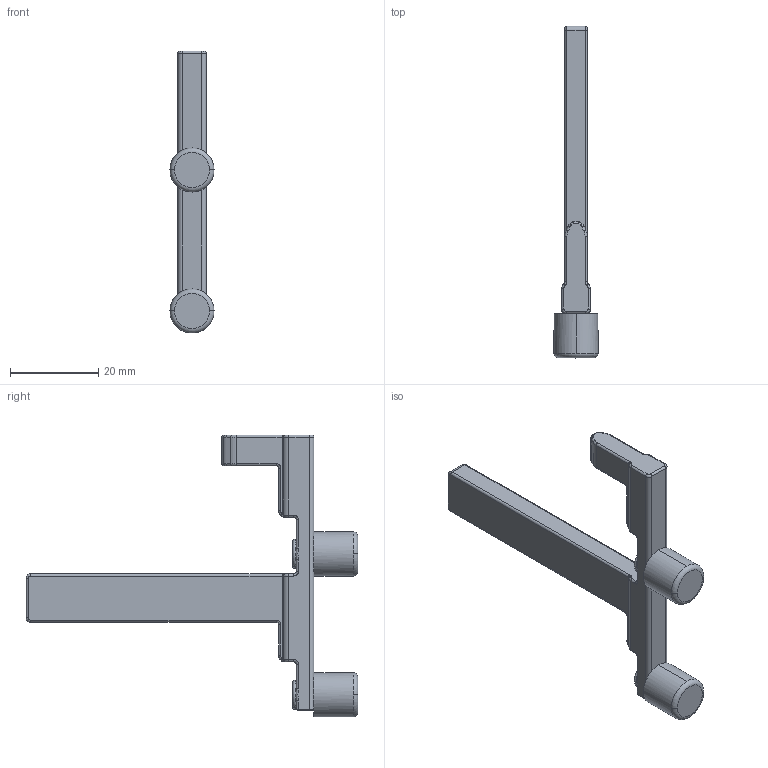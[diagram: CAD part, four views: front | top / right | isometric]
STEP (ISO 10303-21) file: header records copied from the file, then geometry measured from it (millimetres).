
FILE_DESCRIPTION (( 'STEP AP203' ), '1' );
FILE_NAME ('HT12016.STEP', '2021-03-16T01:55:21', ( 'Users' ), ( 'Microsoft' ), 'SwSTEP 2.0', 'SolidWorks 2018', '' );
FILE_SCHEMA (( 'CONFIG_CONTROL_DESIGN' ));
Length unit declared in the file: millimetre
Products named in the file (1): HT12016
Bounding box: 10 x 75.3 x 64 mm (x, y, z)
Volume: 7736.2 mm3; surface area: 4596 mm2
Topology: 1 solids, 3 shells, 329 faces, 838 edges, 510 vertices
Faces by surface type: cylinder 121, plane 105, torus 56, bspline 37, cone 10
Entity records: 13426 total; most frequent: CARTESIAN_POINT 5794, ORIENTED_EDGE 1664, DIRECTION 1530, EDGE_CURVE 832, AXIS2_PLACEMENT_3D 584, VERTEX_POINT 510, VECTOR 362, LINE 362
